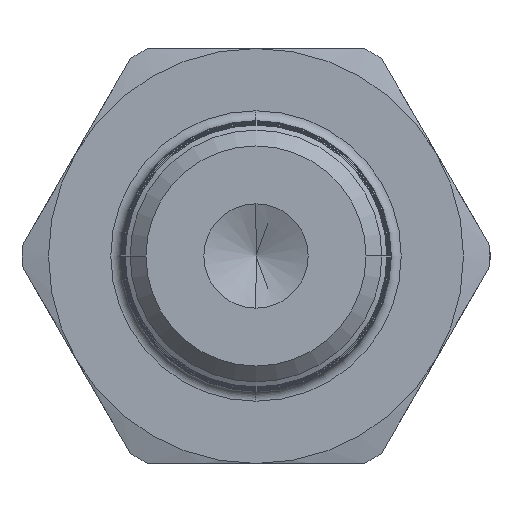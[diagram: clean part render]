
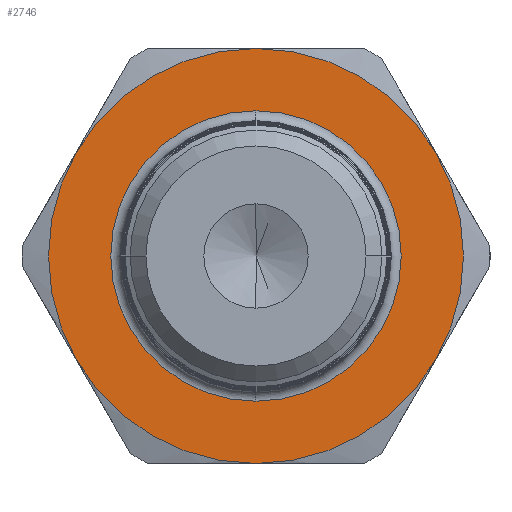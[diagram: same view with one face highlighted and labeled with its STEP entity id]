
A CAD part, left-side view. The second image highlights one B-rep face of the part: STEP entity #2746.
In plain terms, the highlighted planar face has unit normal (-1, 0, 0).
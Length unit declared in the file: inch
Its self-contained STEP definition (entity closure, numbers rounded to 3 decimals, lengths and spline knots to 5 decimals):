
#353 = ORIENTED_EDGE ( 'NONE', *, *, #6443, .T. ) ;
#354 = ORIENTED_EDGE ( 'NONE', *, *, #2628, .T. ) ;
#355 = ORIENTED_EDGE ( 'NONE', *, *, #2629, .T. ) ;
#356 = ORIENTED_EDGE ( 'NONE', *, *, #2630, .T. ) ;
#357 = ORIENTED_EDGE ( 'NONE', *, *, #2631, .T. ) ;
#358 = ORIENTED_EDGE ( 'NONE', *, *, #2632, .T. ) ;
#359 = ORIENTED_EDGE ( 'NONE', *, *, #2633, .T. ) ;
#360 = ORIENTED_EDGE ( 'NONE', *, *, #2634, .T. ) ;
#620 = EDGE_LOOP ( 'NONE', ( #353, #354 ) ) ;
#2353 = CIRCLE ( 'NONE', #2358, 0.21875 ) ;
#2358 = AXIS2_PLACEMENT_3D ( 'NONE', #13338, #13339, #13340 ) ;
#2628 = EDGE_CURVE ( 'NONE', #5356, #5365, #3664, .T. ) ;
#2629 = EDGE_CURVE ( 'NONE', #6716, #6696, #3666, .T. ) ;
#2630 = EDGE_CURVE ( 'NONE', #6696, #6722, #3668, .T. ) ;
#2631 = EDGE_CURVE ( 'NONE', #6722, #6723, #2984, .T. ) ;
#2632 = EDGE_CURVE ( 'NONE', #6723, #6724, #10447, .T. ) ;
#2633 = EDGE_CURVE ( 'NONE', #6724, #6725, #8350, .T. ) ;
#2634 = EDGE_CURVE ( 'NONE', #6725, #6716, #8353, .T. ) ;
#2746 = ADVANCED_FACE ( 'NONE', ( #7560, #7563 ), #7564, .T. ) ;
#2984 = CIRCLE ( 'NONE', #4714, 0.3125 ) ;
#2988 = AXIS2_PLACEMENT_3D ( 'NONE', #4401, #4402, #4403 ) ;
#3012 = AXIS2_PLACEMENT_3D ( 'NONE', #4395, #4396, #4397 ) ;
#3664 = CIRCLE ( 'NONE', #3669, 0.21875 ) ;
#3666 = CIRCLE ( 'NONE', #3671, 0.3125 ) ;
#3668 = CIRCLE ( 'NONE', #3012, 0.3125 ) ;
#3669 = AXIS2_PLACEMENT_3D ( 'NONE', #4389, #4390, #4391 ) ;
#3671 = AXIS2_PLACEMENT_3D ( 'NONE', #4392, #4393, #4394 ) ;
#4389 = CARTESIAN_POINT ( 'NONE',  ( 0.375, 0., 0. ) ) ;
#4390 = DIRECTION ( 'NONE',  ( 1., 0., 0. ) ) ;
#4391 = DIRECTION ( 'NONE',  ( 0., 0., 1. ) ) ;
#4392 = CARTESIAN_POINT ( 'NONE',  ( 0.375, 0., 0. ) ) ;
#4393 = DIRECTION ( 'NONE',  ( -1., 0., 0. ) ) ;
#4394 = DIRECTION ( 'NONE',  ( 0., 0., 1. ) ) ;
#4395 = CARTESIAN_POINT ( 'NONE',  ( 0.375, 0., 0. ) ) ;
#4396 = DIRECTION ( 'NONE',  ( -1., 0., 0. ) ) ;
#4397 = DIRECTION ( 'NONE',  ( 0., 0., 1. ) ) ;
#4398 = CARTESIAN_POINT ( 'NONE',  ( 0.375, 0., 0. ) ) ;
#4399 = DIRECTION ( 'NONE',  ( -1., 0., 0. ) ) ;
#4400 = DIRECTION ( 'NONE',  ( 0., 0., 1. ) ) ;
#4401 = CARTESIAN_POINT ( 'NONE',  ( 0.375, 0., 0. ) ) ;
#4402 = DIRECTION ( 'NONE',  ( -1., 0., 0. ) ) ;
#4403 = DIRECTION ( 'NONE',  ( 0., 0., 1. ) ) ;
#4404 = CARTESIAN_POINT ( 'NONE',  ( 0.375, 0., 0. ) ) ;
#4405 = DIRECTION ( 'NONE',  ( -1., 0., 0. ) ) ;
#4406 = DIRECTION ( 'NONE',  ( 0., 0., 1. ) ) ;
#4409 = CARTESIAN_POINT ( 'NONE',  ( 0.375, 0., 0. ) ) ;
#4410 = DIRECTION ( 'NONE',  ( -1., 0., 0. ) ) ;
#4411 = DIRECTION ( 'NONE',  ( 0., 0., 1. ) ) ;
#4714 = AXIS2_PLACEMENT_3D ( 'NONE', #4398, #4399, #4400 ) ;
#5356 = VERTEX_POINT ( 'NONE', #9701 ) ;
#5365 = VERTEX_POINT ( 'NONE', #9710 ) ;
#6443 = EDGE_CURVE ( 'NONE', #5365, #5356, #2353, .T. ) ;
#6696 = VERTEX_POINT ( 'NONE', #14027 ) ;
#6716 = VERTEX_POINT ( 'NONE', #14047 ) ;
#6722 = VERTEX_POINT ( 'NONE', #14053 ) ;
#6723 = VERTEX_POINT ( 'NONE', #14054 ) ;
#6724 = VERTEX_POINT ( 'NONE', #14055 ) ;
#6725 = VERTEX_POINT ( 'NONE', #14056 ) ;
#7559 = CARTESIAN_POINT ( 'NONE',  ( 0.375, 0., 0. ) ) ;
#7560 = FACE_BOUND ( 'NONE', #620, .T. ) ;
#7563 = FACE_OUTER_BOUND ( 'NONE', #10690, .T. ) ;
#7564 = PLANE ( 'NONE',  #8514 ) ;
#7566 = DIRECTION ( 'NONE',  ( -1., 0., 0. ) ) ;
#7567 = DIRECTION ( 'NONE',  ( 0., 0., 1. ) ) ;
#8350 = CIRCLE ( 'NONE', #8351, 0.3125 ) ;
#8351 = AXIS2_PLACEMENT_3D ( 'NONE', #4404, #4405, #4406 ) ;
#8353 = CIRCLE ( 'NONE', #8354, 0.3125 ) ;
#8354 = AXIS2_PLACEMENT_3D ( 'NONE', #4409, #4410, #4411 ) ;
#8514 = AXIS2_PLACEMENT_3D ( 'NONE', #7559, #7566, #7567 ) ;
#9701 = CARTESIAN_POINT ( 'NONE',  ( 0.375, 0., -0.21875 ) ) ;
#9710 = CARTESIAN_POINT ( 'NONE',  ( 0.375, 0., 0.21875 ) ) ;
#10447 = CIRCLE ( 'NONE', #2988, 0.3125 ) ;
#10690 = EDGE_LOOP ( 'NONE', ( #355, #356, #357, #358, #359, #360 ) ) ;
#13338 = CARTESIAN_POINT ( 'NONE',  ( 0.375, 0., 0. ) ) ;
#13339 = DIRECTION ( 'NONE',  ( 1., 0., 0. ) ) ;
#13340 = DIRECTION ( 'NONE',  ( 0., 0., 1. ) ) ;
#14027 = CARTESIAN_POINT ( 'NONE',  ( 0.375, 0., 0.3125 ) ) ;
#14047 = CARTESIAN_POINT ( 'NONE',  ( 0.375, -0.27063, 0.15625 ) ) ;
#14053 = CARTESIAN_POINT ( 'NONE',  ( 0.375, 0.27063, 0.15625 ) ) ;
#14054 = CARTESIAN_POINT ( 'NONE',  ( 0.375, 0.27063, -0.15625 ) ) ;
#14055 = CARTESIAN_POINT ( 'NONE',  ( 0.375, 0., -0.3125 ) ) ;
#14056 = CARTESIAN_POINT ( 'NONE',  ( 0.375, -0.27063, -0.15625 ) ) ;
